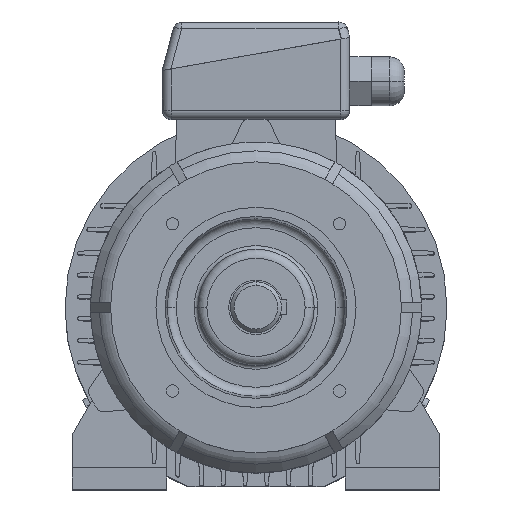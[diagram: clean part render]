
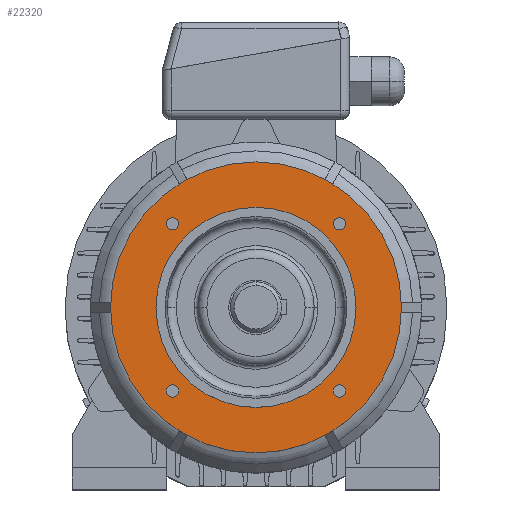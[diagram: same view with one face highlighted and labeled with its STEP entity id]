
A CAD part, top view. The second image highlights one B-rep face of the part: STEP entity #22320.
In plain terms, the highlighted planar face has unit normal (0, 0, 1).
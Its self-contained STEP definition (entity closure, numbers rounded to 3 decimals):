
#16634 = VERTEX_POINT ( 'NONE', #855 ) ;
#16762 = CIRCLE ( 'NONE', #16763, 55. ) ;
#16763 = AXIS2_PLACEMENT_3D ( 'NONE', #16764, #16765, #16766 ) ;
#16764 = CARTESIAN_POINT ( 'NONE',  ( 0., 0., 45. ) ) ;
#16765 = DIRECTION ( 'NONE',  ( 0., 0., -1. ) ) ;
#16766 = DIRECTION ( 'NONE',  ( -1., 0., 0. ) ) ;
#600 = EDGE_LOOP ( 'NONE', ( #27607, #26228 ) ) ;
#855 = CARTESIAN_POINT ( 'NONE',  ( 49.362, 45.962, 45. ) ) ;
#903 = ORIENTED_EDGE ( 'NONE', *, *, #11095, .F. ) ;
#1580 = EDGE_CURVE ( 'NONE', #3465, #25409, #11978, .T. ) ;
#17961 = EDGE_CURVE ( 'NONE', #6633, #14018, #1915, .T. ) ;
#1915 = CIRCLE ( 'NONE', #1916, 3.4 ) ;
#1916 = AXIS2_PLACEMENT_3D ( 'NONE', #1917, #1918, #1919 ) ;
#1917 = CARTESIAN_POINT ( 'NONE',  ( 45.962, -45.962, 45. ) ) ;
#1918 = DIRECTION ( 'NONE',  ( 0., 0., 1. ) ) ;
#1919 = DIRECTION ( 'NONE',  ( 1., 0., 0. ) ) ;
#2058 = ORIENTED_EDGE ( 'NONE', *, *, #1580, .F. ) ;
#18685 = CARTESIAN_POINT ( 'NONE',  ( -42.562, 45.962, 45. ) ) ;
#2658 = VERTEX_POINT ( 'NONE', #14318 ) ;
#2709 = EDGE_LOOP ( 'NONE', ( #2058, #903 ) ) ;
#3020 = ORIENTED_EDGE ( 'NONE', *, *, #24143, .F. ) ;
#3465 = VERTEX_POINT ( 'NONE', #16071 ) ;
#19914 = EDGE_LOOP ( 'NONE', ( #3635, #3020 ) ) ;
#3581 = VERTEX_POINT ( 'NONE', #16145 ) ;
#3635 = ORIENTED_EDGE ( 'NONE', *, *, #8038, .F. ) ;
#20142 = CARTESIAN_POINT ( 'NONE',  ( 42.562, -45.962, 45. ) ) ;
#20228 = EDGE_CURVE ( 'NONE', #2658, #3581, #4801, .T. ) ;
#3871 = EDGE_CURVE ( 'NONE', #3581, #2658, #16762, .T. ) ;
#20705 = ORIENTED_EDGE ( 'NONE', *, *, #20228, .T. ) ;
#20750 = CIRCLE ( 'NONE', #20751, 3.4 ) ;
#20751 = AXIS2_PLACEMENT_3D ( 'NONE', #20752, #20753, #20754 ) ;
#20752 = CARTESIAN_POINT ( 'NONE',  ( -45.962, 45.962, 45. ) ) ;
#20753 = DIRECTION ( 'NONE',  ( 0., 0., 1. ) ) ;
#20754 = DIRECTION ( 'NONE',  ( 1., 0., 0. ) ) ;
#21114 = CARTESIAN_POINT ( 'NONE',  ( 80., 0., 45. ) ) ;
#4801 = CIRCLE ( 'NONE', #4802, 55. ) ;
#4802 = AXIS2_PLACEMENT_3D ( 'NONE', #4803, #4804, #4805 ) ;
#4803 = CARTESIAN_POINT ( 'NONE',  ( 0., 0., 45. ) ) ;
#4804 = DIRECTION ( 'NONE',  ( 0., 0., -1. ) ) ;
#4805 = DIRECTION ( 'NONE',  ( -1., 0., 0. ) ) ;
#21363 = ORIENTED_EDGE ( 'NONE', *, *, #3871, .T. ) ;
#21367 = CARTESIAN_POINT ( 'NONE',  ( -80., 0., 45. ) ) ;
#5374 = VERTEX_POINT ( 'NONE', #18685 ) ;
#21903 = CIRCLE ( 'NONE', #21904, 80. ) ;
#21904 = AXIS2_PLACEMENT_3D ( 'NONE', #21905, #21906, #21907 ) ;
#21905 = CARTESIAN_POINT ( 'NONE',  ( 0., 0., 45. ) ) ;
#21906 = DIRECTION ( 'NONE',  ( 0., 0., -1. ) ) ;
#21907 = DIRECTION ( 'NONE',  ( -1., 0., 0. ) ) ;
#22021 = EDGE_LOOP ( 'NONE', ( #21363, #20705 ) ) ;
#22320 = ADVANCED_FACE ( 'NONE', ( #7673, #7674, #7675, #7676, #7677, #7678 ), #7679, .T. ) ;
#6474 = ORIENTED_EDGE ( 'NONE', *, *, #13738, .F. ) ;
#6633 = VERTEX_POINT ( 'NONE', #20142 ) ;
#7154 = EDGE_CURVE ( 'NONE', #5374, #15224, #20750, .T. ) ;
#23688 = CIRCLE ( 'NONE', #23689, 3.4 ) ;
#23689 = AXIS2_PLACEMENT_3D ( 'NONE', #23690, #23691, #23692 ) ;
#23690 = CARTESIAN_POINT ( 'NONE',  ( 45.962, 45.962, 45. ) ) ;
#23691 = DIRECTION ( 'NONE',  ( 0., 0., 1. ) ) ;
#23692 = DIRECTION ( 'NONE',  ( 1., 0., 0. ) ) ;
#7470 = VERTEX_POINT ( 'NONE', #21114 ) ;
#7616 = ORIENTED_EDGE ( 'NONE', *, *, #7154, .F. ) ;
#7673 = FACE_BOUND ( 'NONE', #22021, .T. ) ;
#7674 = FACE_OUTER_BOUND ( 'NONE', #19914, .T. ) ;
#7675 = FACE_BOUND ( 'NONE', #2709, .T. ) ;
#7676 = FACE_BOUND ( 'NONE', #600, .T. ) ;
#7677 = FACE_BOUND ( 'NONE', #25920, .T. ) ;
#7678 = FACE_BOUND ( 'NONE', #8284, .T. ) ;
#7679 = PLANE ( 'NONE',  #7680 ) ;
#7680 = AXIS2_PLACEMENT_3D ( 'NONE', #7681, #7682, #7683 ) ;
#7681 = CARTESIAN_POINT ( 'NONE',  ( -80., 0., 45. ) ) ;
#7682 = DIRECTION ( 'NONE',  ( 0., 0., 1. ) ) ;
#7683 = DIRECTION ( 'NONE',  ( 1., 0., 0. ) ) ;
#7747 = VERTEX_POINT ( 'NONE', #21367 ) ;
#24143 = EDGE_CURVE ( 'NONE', #7470, #7747, #10381, .T. ) ;
#8038 = EDGE_CURVE ( 'NONE', #7747, #7470, #21903, .T. ) ;
#8284 = EDGE_LOOP ( 'NONE', ( #7616, #6474 ) ) ;
#24752 = CIRCLE ( 'NONE', #24753, 3.4 ) ;
#24753 = AXIS2_PLACEMENT_3D ( 'NONE', #24754, #24755, #24756 ) ;
#24754 = CARTESIAN_POINT ( 'NONE',  ( -45.962, -45.962, 45. ) ) ;
#24755 = DIRECTION ( 'NONE',  ( 0., 0., 1. ) ) ;
#24756 = DIRECTION ( 'NONE',  ( 1., 0., 0. ) ) ;
#8591 = ORIENTED_EDGE ( 'NONE', *, *, #12667, .F. ) ;
#25409 = VERTEX_POINT ( 'NONE', #12186 ) ;
#25806 = CIRCLE ( 'NONE', #25807, 3.4 ) ;
#25807 = AXIS2_PLACEMENT_3D ( 'NONE', #25808, #25809, #25810 ) ;
#25808 = CARTESIAN_POINT ( 'NONE',  ( 45.962, 45.962, 45. ) ) ;
#25809 = DIRECTION ( 'NONE',  ( 0., 0., 1. ) ) ;
#25810 = DIRECTION ( 'NONE',  ( 1., 0., 0. ) ) ;
#25920 = EDGE_LOOP ( 'NONE', ( #10432, #8591 ) ) ;
#9645 = EDGE_CURVE ( 'NONE', #16634, #26294, #23688, .T. ) ;
#26228 = ORIENTED_EDGE ( 'NONE', *, *, #17961, .F. ) ;
#26294 = VERTEX_POINT ( 'NONE', #13855 ) ;
#26418 = CIRCLE ( 'NONE', #26419, 3.4 ) ;
#26419 = AXIS2_PLACEMENT_3D ( 'NONE', #26420, #26421, #26422 ) ;
#26420 = CARTESIAN_POINT ( 'NONE',  ( -45.962, 45.962, 45. ) ) ;
#26421 = DIRECTION ( 'NONE',  ( 0., 0., 1. ) ) ;
#26422 = DIRECTION ( 'NONE',  ( 1., 0., 0. ) ) ;
#26686 = CARTESIAN_POINT ( 'NONE',  ( 49.362, -45.962, 45. ) ) ;
#10381 = CIRCLE ( 'NONE', #10382, 80. ) ;
#10382 = AXIS2_PLACEMENT_3D ( 'NONE', #10383, #10384, #10385 ) ;
#10383 = CARTESIAN_POINT ( 'NONE',  ( 0., 0., 45. ) ) ;
#10384 = DIRECTION ( 'NONE',  ( 0., 0., -1. ) ) ;
#10385 = DIRECTION ( 'NONE',  ( -1., 0., 0. ) ) ;
#10432 = ORIENTED_EDGE ( 'NONE', *, *, #9645, .F. ) ;
#27124 = EDGE_CURVE ( 'NONE', #14018, #6633, #16002, .T. ) ;
#11095 = EDGE_CURVE ( 'NONE', #25409, #3465, #24752, .T. ) ;
#27607 = ORIENTED_EDGE ( 'NONE', *, *, #27124, .F. ) ;
#27616 = CARTESIAN_POINT ( 'NONE',  ( -49.362, 45.962, 45. ) ) ;
#11978 = CIRCLE ( 'NONE', #12001, 3.4 ) ;
#12001 = AXIS2_PLACEMENT_3D ( 'NONE', #12002, #12003, #12004 ) ;
#12002 = CARTESIAN_POINT ( 'NONE',  ( -45.962, -45.962, 45. ) ) ;
#12003 = DIRECTION ( 'NONE',  ( 0., 0., 1. ) ) ;
#12004 = DIRECTION ( 'NONE',  ( 1., 0., 0. ) ) ;
#12186 = CARTESIAN_POINT ( 'NONE',  ( -49.362, -45.962, 45. ) ) ;
#12667 = EDGE_CURVE ( 'NONE', #26294, #16634, #25806, .T. ) ;
#13738 = EDGE_CURVE ( 'NONE', #15224, #5374, #26418, .T. ) ;
#13855 = CARTESIAN_POINT ( 'NONE',  ( 42.562, 45.962, 45. ) ) ;
#14018 = VERTEX_POINT ( 'NONE', #26686 ) ;
#14318 = CARTESIAN_POINT ( 'NONE',  ( 55., 0., 45. ) ) ;
#15224 = VERTEX_POINT ( 'NONE', #27616 ) ;
#16002 = CIRCLE ( 'NONE', #16003, 3.4 ) ;
#16003 = AXIS2_PLACEMENT_3D ( 'NONE', #16004, #16005, #16006 ) ;
#16004 = CARTESIAN_POINT ( 'NONE',  ( 45.962, -45.962, 45. ) ) ;
#16005 = DIRECTION ( 'NONE',  ( 0., 0., 1. ) ) ;
#16006 = DIRECTION ( 'NONE',  ( 1., 0., 0. ) ) ;
#16071 = CARTESIAN_POINT ( 'NONE',  ( -42.562, -45.962, 45. ) ) ;
#16145 = CARTESIAN_POINT ( 'NONE',  ( -55., 0., 45. ) ) ;
